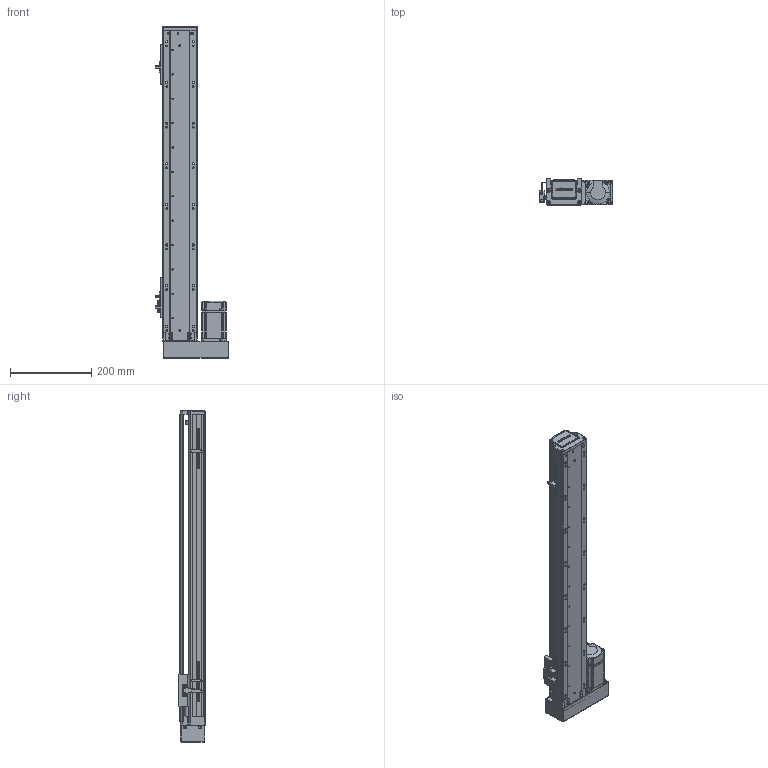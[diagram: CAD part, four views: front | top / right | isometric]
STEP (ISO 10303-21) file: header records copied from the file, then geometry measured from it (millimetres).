
FILE_DESCRIPTION (( 'STEP AP203' ), '1' );
FILE_NAME ('RY80-L1620-300-LK.SLDASM_600.step', '2021-02-20T07:17:00', ( '盈信电脑' ), ( '东莞市道滘镇水果街19号' ), 'SwSTEP 2.0', 'SolidWorks 2012', '' );
FILE_SCHEMA (( 'CONFIG_CONTROL_DESIGN' ));
Products named in the file (15): 滅袉蝶18-10; RY80綴裔啣; RY80-300蛌諉倰第奻裔啣-LK_600; RY80-300蛌諉倰第菁釱-LK_600; RY80臏賑輸; 滅袉蝶18-24; RY80俋离覜茼え; RY80-L1620-300-LK.SLDASM_600; T倰羞; RY80酘殏俋欶; 覜茼ん672; 侂狟200W萇儂; RY80酘莞萇儂假蚾啣; RY80转接电机端支撑座; 1
Assembly tree (17 placements, depth 3):
  RY80-L1620-300-LK.SLDASM_600
    RY80-300蛌諉倰第菁釱-LK_600
    RY80臏賑輸
    RY80-300蛌諉倰第奻裔啣-LK_600
    RY80綴裔啣
    滅袉蝶18-10
    RY80转接电机端支撑座
    侂狟200W萇儂
      1
    RY80酘莞萇儂假蚾啣
    RY80酘殏俋欶
    覜茼ん672  x3
    T倰羞  x2
    RY80俋离覜茼え
    滅袉蝶18-24
Bounding box: 181.7 x 65 x 817 mm (x, y, z)
Volume: 1624410 mm3; surface area: 640726.4 mm2
Topology: 16 solids, 16 shells, 2228 faces, 6157 edges, 3989 vertices
Faces by surface type: plane 1187, cylinder 839, cone 140, bspline 62
Entity records: 71507 total; most frequent: CARTESIAN_POINT 18651, ORIENTED_EDGE 11002, DIRECTION 10164, EDGE_CURVE 5501, VERTEX_POINT 3605, AXIS2_PLACEMENT_3D 3410, VECTOR 3344, LINE 3344
